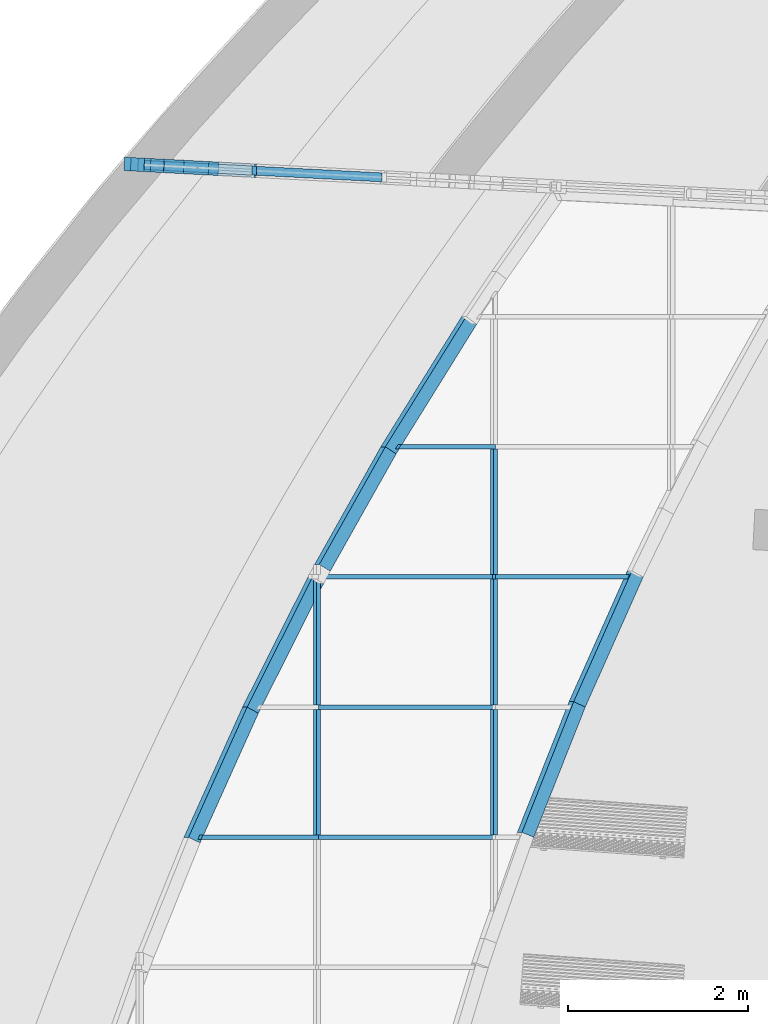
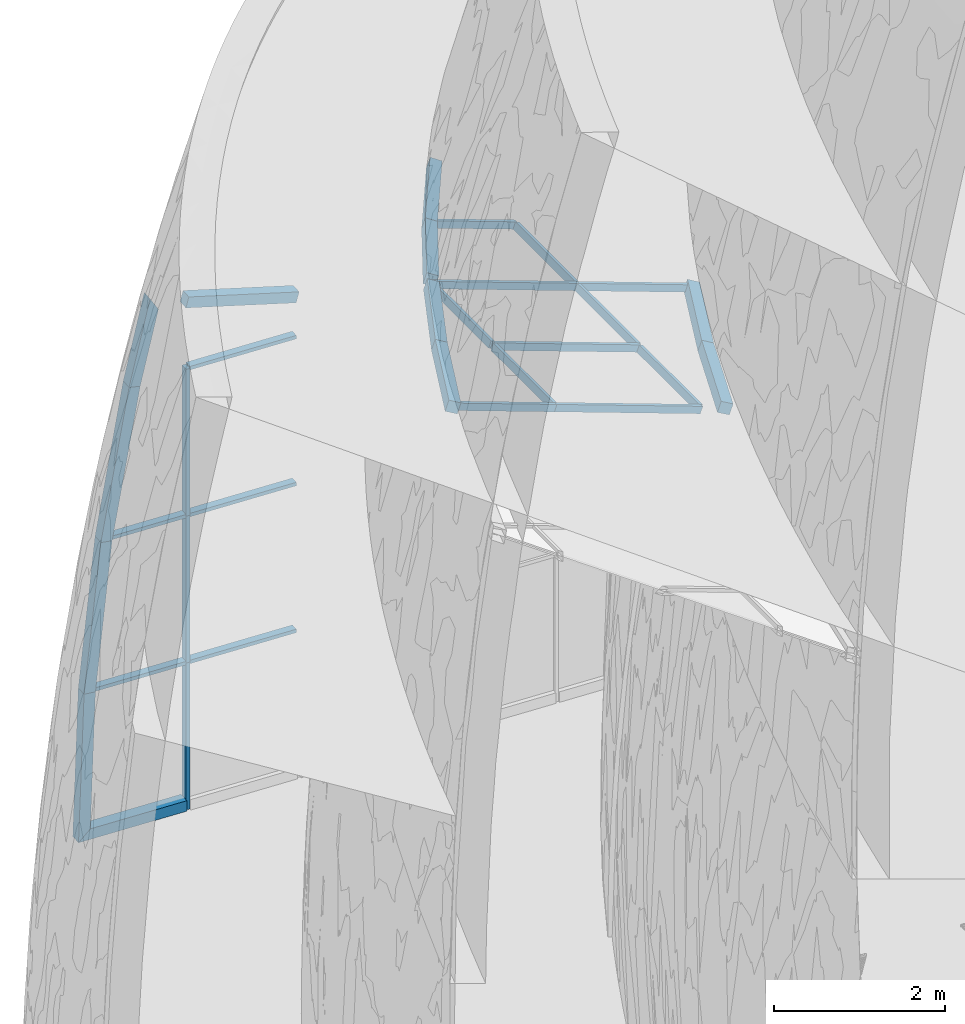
# One storey, part 16 of 82: 31 members, 2 elements without a shape of their own.
"""IFC2X3 building model written with IfcOpenShell, lengths in millimetres."""

from ifc_helpers import new_model, entity, si_unit, converted_unit, derived_unit, direction, frame, frame_2d, origin, origin_2d_with_axis, place, context, subcontext, project, spatial, polyline, rectangle, extrude, clip, halfspace, bounded_halfspace, source, transform, mapped, material, type_object, type_shapes, element, aggregate, save


model = new_model("IFC2X3")

# Units and contexts
model_context = context("Model", 3, precision=0.01, world=origin(), true_north=direction((6.12303176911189e-17, 1.0)))
body_context = subcontext(model_context, "Body", "Model", "MODEL_VIEW")
ifc_project = project(units=[si_unit("LENGTHUNIT", "METRE", prefix="MILLI"), si_unit("AREAUNIT", "SQUARE_METRE"), si_unit("VOLUMEUNIT", "CUBIC_METRE"), converted_unit("PLANEANGLEUNIT", "DEGREE", entity("IfcRatioMeasure", 0.0174532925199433), si_unit("PLANEANGLEUNIT", "RADIAN"), dimensions=[0, 0, 0, 0, 0, 0, 0]), si_unit("MASSUNIT", "GRAM", prefix="KILO"), derived_unit("MASSDENSITYUNIT", [(si_unit("MASSUNIT", "GRAM", prefix="KILO"), 1), (si_unit("LENGTHUNIT", "METRE"), -3)]), si_unit("TIMEUNIT", "SECOND"), si_unit("FREQUENCYUNIT", "HERTZ"), si_unit("THERMODYNAMICTEMPERATUREUNIT", "DEGREE_CELSIUS"), derived_unit("THERMALTRANSMITTANCEUNIT", [(si_unit("MASSUNIT", "GRAM", prefix="KILO"), 1), (si_unit("THERMODYNAMICTEMPERATUREUNIT", "KELVIN"), -1), (si_unit("TIMEUNIT", "SECOND"), -3)]), derived_unit("VOLUMETRICFLOWRATEUNIT", [(si_unit("LENGTHUNIT", "METRE"), 3), (si_unit("TIMEUNIT", "SECOND"), -1)]), si_unit("ELECTRICCURRENTUNIT", "AMPERE"), si_unit("ELECTRICVOLTAGEUNIT", "VOLT"), si_unit("POWERUNIT", "WATT"), si_unit("FORCEUNIT", "NEWTON", prefix="KILO"), si_unit("ILLUMINANCEUNIT", "LUX"), si_unit("LUMINOUSFLUXUNIT", "LUMEN"), si_unit("LUMINOUSINTENSITYUNIT", "CANDELA"), derived_unit("USERDEFINED", [(si_unit("MASSUNIT", "GRAM", prefix="KILO"), -1), (si_unit("LENGTHUNIT", "METRE"), -2), (si_unit("TIMEUNIT", "SECOND"), 3), (si_unit("LUMINOUSFLUXUNIT", "LUMEN"), 1)]), derived_unit("LINEARVELOCITYUNIT", [(si_unit("LENGTHUNIT", "METRE"), 1), (si_unit("TIMEUNIT", "SECOND"), -1)]), si_unit("PRESSUREUNIT", "PASCAL"), derived_unit("USERDEFINED", [(si_unit("LENGTHUNIT", "METRE"), -2), (si_unit("MASSUNIT", "GRAM", prefix="KILO"), 1), (si_unit("TIMEUNIT", "SECOND"), -2)])], contexts=[model_context])

# Site, building, storey
site_placement = place(None, origin())
site = spatial("IfcSite", under=ifc_project, at=site_placement, Name="表面", CompositionType="ELEMENT")
building_placement = place(site_placement, origin())
building = spatial("IfcBuilding", under=site, at=building_placement, CompositionType="ELEMENT")
storey_placement = place(building_placement, origin())
storey = spatial("IfcBuildingStorey", under=building, at=storey_placement, Name="1F", CompositionType="ELEMENT", Elevation=0.0)

# Curtain wall, members
curtain_wall_type = type_object("IfcCurtainWallType", Name="幕墙系统:1450 x 2100mm", PredefinedType="NOTDEFINED")
curtain_wall_1_placement = place(storey_placement, origin())
curtain_wall_1 = element("IfcCurtainWall", 1, at=curtain_wall_1_placement, inside=storey, type_object=curtain_wall_type, Name="幕墙系统:1450 x 2100mm", ObjectType="幕墙系统:1450 x 2100mm")
ifc_material_1 = material(Name="金属 - 铝")
member_type_1 = type_object("IfcMemberType", Name="50 x 100mm", PredefinedType="MEMBER")
shared_shape_1 = source(origin(), body_context, "Body", "SweptSolid", [
    extrude(rectangle(XDim=100.0, YDim=50.0, at=origin_2d_with_axis()), frame((0.0, 0.0, -1400.0), z_axis=(0.0, 0.0, 1.0), x_axis=(0.0, -1.0, 0.0)), (0.0, 0.0, 1.0), 1400.0),
])
type_shapes(member_type_1, [shared_shape_1])
member_1_placement = place(storey_placement, frame((-35456.9413471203, 3077.63650303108, 2100.0), z_axis=(-0.998629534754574, 0.0523359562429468, 0.0), x_axis=(0.0, 0.0, 1.0)))
member_1 = element("IfcMember", 2, at=member_1_placement, type_object=member_type_1, material=ifc_material_1, Name="矩形竖梃:50 x 100mm", ObjectType="50 x 100mm", context=body_context, shape_type="MappedRepresentation", body=[
    mapped(shared_shape_1, transform((0.0, 0.0, 0.0), scale=1.0)),
])
placement_1 = place(building_placement, frame((0.0, 0.0, 3000.0)))
member_2_placement = place(placement_1, frame((-35456.9413471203, 3077.63650303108, 1200.0), z_axis=(-0.998629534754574, 0.0523359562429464, 0.0), x_axis=(0.0, 0.0, 1.0)))
member_2 = element("IfcMember", 3, at=member_2_placement, type_object=member_type_1, material=ifc_material_1, Name="矩形竖梃:50 x 100mm", ObjectType="50 x 100mm", context=body_context, shape_type="MappedRepresentation", body=[
    mapped(shared_shape_1, transform((0.0, 0.0, 0.0), scale=1.0)),
])
placement_2 = place(building_placement, frame((0.0, 0.0, 6000.0)))
member_3_placement = place(placement_2, frame((-35456.9413471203, 3077.63650303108, 300.0), z_axis=(-0.998629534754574, 0.0523359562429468, 0.0), x_axis=(0.0, 0.0, 1.0)))
member_3 = element("IfcMember", 4, at=member_3_placement, type_object=member_type_1, material=ifc_material_1, Name="矩形竖梃:50 x 100mm", ObjectType="50 x 100mm", context=body_context, shape_type="MappedRepresentation", body=[
    mapped(shared_shape_1, transform((0.0, 0.0, 0.0), scale=1.0)),
])

curtain_wall_2_placement = place(storey_placement, origin())
curtain_wall_2 = element("IfcCurtainWall", 5, at=curtain_wall_2_placement, inside=storey, type_object=curtain_wall_type, Name="幕墙系统:1450 x 2100mm", ObjectType="幕墙系统:1450 x 2100mm")
placement_3 = place(building_placement, frame((0.0, 0.0, 9000.0)))
member_4_placement = place(placement_3, frame((-32809.9164128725, -21.8767198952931, 262.101232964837), z_axis=(0.0, 1.0, 0.0), x_axis=(-0.93969262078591, 0.0, 0.342020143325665)))
member_4 = element("IfcMember", 6, at=member_4_placement, type_object=member_type_1, material=ifc_material_1, Name="矩形竖梃:50 x 100mm", ObjectType="50 x 100mm", context=body_context, shape_type="MappedRepresentation", body=[
    mapped(shared_shape_1, transform((0.0, 0.0, 0.0), scale=1.0)),
])
member_5_placement = place(placement_3, frame((-32809.9164128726, -1471.8767198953, 262.101232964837), z_axis=(0.0, 1.0, 0.0), x_axis=(-0.93969262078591, 0.0, 0.342020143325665)))
member_5 = element("IfcMember", 7, at=member_5_placement, type_object=member_type_1, material=ifc_material_1, Name="矩形竖梃:50 x 100mm", ObjectType="50 x 100mm", context=body_context, shape_type="MappedRepresentation", body=[
    mapped(shared_shape_1, transform((0.0, 0.0, 0.0), scale=1.0)),
])
member_6_placement = place(placement_3, frame((-32809.9164128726, -2921.87671989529, 262.101232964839), z_axis=(0.0, 1.0, 0.0), x_axis=(-0.93969262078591, 0.0, 0.342020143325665)))
member_6 = element("IfcMember", 8, at=member_6_placement, type_object=member_type_1, material=ifc_material_1, Name="矩形竖梃:50 x 100mm", ObjectType="50 x 100mm", context=body_context, shape_type="MappedRepresentation", body=[
    mapped(shared_shape_1, transform((0.0, 0.0, 0.0), scale=1.0)),
])
member_7_placement = place(placement_3, frame((-34783.270916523, -1471.87671989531, 980.343533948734), z_axis=(0.0, 1.0, 0.0), x_axis=(-0.93969262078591, 0.0, 0.342020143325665)))
member_7 = element("IfcMember", 9, at=member_7_placement, type_object=member_type_1, material=ifc_material_1, Name="矩形竖梃:50 x 100mm", ObjectType="50 x 100mm", context=body_context, shape_type="MappedRepresentation", body=[
    mapped(shared_shape_1, transform((0.0, 0.0, 0.0), scale=1.0)),
])
member_8_placement = place(placement_3, frame((-34783.270916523, -2921.87671989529, 980.343533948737), z_axis=(0.0, 1.0, 0.0), x_axis=(-0.93969262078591, 0.0, 0.342020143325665)))
member_8 = element("IfcMember", 10, at=member_8_placement, type_object=member_type_1, material=ifc_material_1, Name="矩形竖梃:50 x 100mm", ObjectType="50 x 100mm", context=body_context, shape_type="MappedRepresentation", body=[
    mapped(shared_shape_1, transform((0.0, 0.0, 0.0), scale=1.0)),
])

# Member
member_type_2 = type_object("IfcMemberType", Name="50 x 100mm", PredefinedType="MEMBER")
shared_shape_2 = source(origin(), body_context, "Body", "SweptSolid", [
    extrude(rectangle(XDim=100.0, YDim=50.0, at=origin_2d_with_axis()), frame((0.0, 0.0, -2100.0), z_axis=(0.0, 0.0, 1.0), x_axis=(0.0, -1.0, 0.0)), (0.0, 0.0, 1.0), 2100.0),
])
type_shapes(member_type_2, [shared_shape_2])
member_9_placement = place(storey_placement, frame((-35481.9070854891, 3078.94490193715, 2100.0), z_axis=(0.0, 0.0, 1.0), x_axis=(0.998629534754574, -0.0523359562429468, 0.0)))
member_9 = element("IfcMember", 11, at=member_9_placement, type_object=member_type_2, material=ifc_material_1, Name="矩形竖梃:50 x 100mm", ObjectType="50 x 100mm", context=body_context, shape_type="MappedRepresentation", body=[
    mapped(shared_shape_2, transform((0.0, 0.0, 0.0), scale=1.0)),
])

member_type_3 = type_object("IfcMemberType", Name="50 x 100mm", PredefinedType="MEMBER")
shared_shape_3 = source(origin(), body_context, "Body", "SweptSolid", [
    extrude(rectangle(XDim=100.0, YDim=50.0, at=origin_2d_with_axis()), frame((0.0, 0.0, -2100.0), z_axis=(0.0, 0.0, 1.0), x_axis=(0.0, -1.0, 0.0)), (0.0, 0.0, 1.0), 2100.0),
])
type_shapes(member_type_3, [shared_shape_3])
member_10_placement = place(storey_placement, frame((-35481.9070854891, 3078.94490193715, 4200.0), z_axis=(0.0, 0.0, 1.0), x_axis=(0.998629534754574, -0.0523359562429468, 0.0)))
member_10 = element("IfcMember", 12, at=member_10_placement, type_object=member_type_3, material=ifc_material_1, Name="矩形竖梃:50 x 100mm", ObjectType="50 x 100mm", context=body_context, shape_type="MappedRepresentation", body=[
    mapped(shared_shape_3, transform((0.0, 0.0, 0.0), scale=1.0)),
])

member_11_placement = place(placement_1, frame((-35481.9070854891, 3078.94490193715, 3300.0), z_axis=(0.0, 0.0, 1.0), x_axis=(0.998629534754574, -0.0523359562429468, 0.0)))
member_11 = element("IfcMember", 13, at=member_11_placement, type_object=member_type_3, material=ifc_material_1, Name="矩形竖梃:50 x 100mm", ObjectType="50 x 100mm", context=body_context, shape_type="MappedRepresentation", body=[
    mapped(shared_shape_3, transform((0.0, 0.0, 0.0), scale=1.0)),
])

member_12_placement = place(placement_3, frame((-34783.270916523, -1446.87671989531, 980.343533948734), z_axis=(-0.939692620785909, 0.0, 0.342020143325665), x_axis=(0.0, -1.0, 0.0)))
member_12 = element("IfcMember", 14, at=member_12_placement, type_object=member_type_3, material=ifc_material_1, Name="矩形竖梃:50 x 100mm", ObjectType="50 x 100mm", context=body_context, shape_type="MappedRepresentation", body=[
    mapped(shared_shape_3, transform((0.0, 0.0, 0.0), scale=1.0)),
])

member_13_placement = place(placement_3, frame((-34783.270916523, -2896.87671989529, 980.343533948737), z_axis=(-0.939692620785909, 0.0, 0.342020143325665), x_axis=(0.0, -1.0, 0.0)))
member_13 = element("IfcMember", 15, at=member_13_placement, type_object=member_type_3, material=ifc_material_1, Name="矩形竖梃:50 x 100mm", ObjectType="50 x 100mm", context=body_context, shape_type="MappedRepresentation", body=[
    mapped(shared_shape_3, transform((0.0, 0.0, 0.0), scale=1.0)),
])

member_14_placement = place(placement_3, frame((-34783.270916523, -4346.8767198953, 980.343533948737), z_axis=(-0.93969262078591, 0.0, 0.342020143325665), x_axis=(0.0, -1.0, 0.0)))
member_14 = element("IfcMember", 16, at=member_14_placement, type_object=member_type_3, material=ifc_material_1, Name="矩形竖梃:50 x 100mm", ObjectType="50 x 100mm", context=body_context, shape_type="MappedRepresentation", body=[
    mapped(shared_shape_3, transform((0.0, 0.0, 0.0), scale=1.0)),
])

ifc_material_2 = material(Name="木质 - 木材")
member_type_4 = type_object("IfcMemberType", Name="200 x 150mm", PredefinedType="MEMBER")
shared_shape_4 = source(origin(), body_context, "Body", "Clipping", [
    clip(extrude(rectangle(XDim=150.0, YDim=150.0, at=origin_2d_with_axis()), frame((-75.0, 0.0, -1425.0), z_axis=(0.0, 0.0, 1.0), x_axis=(0.0, -1.0, 0.0)), (0.0, 0.0, 1.0), 1425.0), halfspace(frame((0.0, -304.800000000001, -1425.0), z_axis=(-0.719267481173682, 0.0, -0.694733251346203), x_axis=(-0.694733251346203, 0.0, 0.719267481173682)), False)),
])
type_shapes(member_type_4, [shared_shape_4])
member_15_placement = place(storey_placement, frame((-35506.872823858, 3080.25330084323, 0.0), z_axis=(0.998629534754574, -0.0523359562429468, 0.0), x_axis=(0.0, 0.0, -1.0)))
member_15 = element("IfcMember", 17, at=member_15_placement, type_object=member_type_4, material=ifc_material_2, Name="矩形竖梃:200 x 150mm", ObjectType="200 x 150mm", context=body_context, shape_type="MappedRepresentation", body=[
    mapped(shared_shape_4, transform((0.0, 0.0, 0.0), scale=1.0)),
])

member_type_5 = type_object("IfcMemberType", Name="200 x 150mm", PredefinedType="MEMBER")
shared_shape_5 = source(origin(), body_context, "Body", "SweptSolid", [
    extrude(rectangle(XDim=150.0, YDim=150.0, at=frame_2d((7.105427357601e-15, 3.5527136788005e-14), x_axis=(1.0, 0.0))), frame((-75.0, 0.0, -1501.01273844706), z_axis=(0.0, 0.0, 1.0), x_axis=(0.0, -1.0, 0.0)), (0.0, 0.0, 1.0), 1501.01273844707),
])
type_shapes(member_type_5, [shared_shape_5])
member_16_placement = place(placement_2, frame((-35481.9070854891, 3078.94490193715, 1343.1751265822), z_axis=(-0.964690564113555, 0.0505572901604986, 0.258488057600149), x_axis=(0.258133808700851, -0.0135282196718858, 0.966014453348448)))
member_16 = element("IfcMember", 18, at=member_16_placement, type_object=member_type_5, material=ifc_material_2, Name="矩形竖梃:200 x 150mm", ObjectType="200 x 150mm", context=body_context, shape_type="MappedRepresentation", body=[
    mapped(shared_shape_5, transform((0.0, 0.0, 0.0), scale=1.0)),
])

member_type_6 = type_object("IfcMemberType", Name="200 x 150mm", PredefinedType="MEMBER")
shared_shape_6 = source(origin(), body_context, "Body", "Clipping", [
    clip(clip(extrude(rectangle(XDim=150.0, YDim=150.0, at=frame_2d((0.0, 1.4210854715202e-14), x_axis=(1.0, 0.0))), frame((-75.0, 0.0, -2101.2700808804), z_axis=(0.0, 0.0, 1.0), x_axis=(0.0, -1.0, 0.0)), (0.0, 0.0, 1.0), 2101.2700808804), halfspace(frame((0.0, -304.8, -2101.2700808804), z_axis=(-0.0348482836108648, 0.0, -0.999392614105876), x_axis=(-0.999392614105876, 0.0, 0.0348482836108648)), False)), halfspace(frame((0.0, -304.8, 0.0), z_axis=(-0.719292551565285, 0.0, 0.694707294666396), x_axis=(-0.694707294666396, 0.0, -0.719292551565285)), False)),
])
type_shapes(member_type_6, [shared_shape_6])
member_17_placement = place(storey_placement, frame((-36929.9199108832, 3154.83203848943, 0.0), z_axis=(-0.0347159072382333, 0.00181938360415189, -0.999395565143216), x_axis=(-0.998025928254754, 0.0523043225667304, 0.0347635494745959)))
member_17 = element("IfcMember", 19, at=member_17_placement, type_object=member_type_6, material=ifc_material_2, Name="矩形竖梃:200 x 150mm", ObjectType="200 x 150mm", context=body_context, shape_type="MappedRepresentation", body=[
    mapped(shared_shape_6, transform((0.0, 0.0, 0.0), scale=1.0)),
])

member_type_7 = type_object("IfcMemberType", Name="200 x 150mm", PredefinedType="MEMBER")
shared_shape_7 = source(origin(), body_context, "Body", "Clipping", [
    clip(clip(extrude(rectangle(XDim=150.0, YDim=150.0, at=origin_2d_with_axis()), frame((-75.0, 0.0, -2111.51451299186), z_axis=(0.0, 0.0, 1.0), x_axis=(0.0, -1.0, 0.0)), (0.0, 0.0, 1.0), 2111.51451299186), halfspace(frame((0.0, -304.8, -2111.51451299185), z_axis=(-0.0351062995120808, 0.0, -0.999383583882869), x_axis=(-0.999383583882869, 0.0, 0.0351062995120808)), False)), halfspace(frame((0.0, -304.8, 0.0), z_axis=(-0.0348482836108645, 0.0, 0.999392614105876), x_axis=(-0.999392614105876, 0.0, -0.0348482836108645)), False)),
])
type_shapes(member_type_7, [shared_shape_7])
member_18_placement = place(storey_placement, frame((-36856.9724136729, 3151.00902215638, 2100.0), z_axis=(-0.104148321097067, 0.00545818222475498, -0.994546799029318), x_axis=(-0.993183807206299, 0.0520505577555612, 0.104291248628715)))
member_18 = element("IfcMember", 20, at=member_18_placement, type_object=member_type_7, material=ifc_material_2, Name="矩形竖梃:200 x 150mm", ObjectType="200 x 150mm", context=body_context, shape_type="MappedRepresentation", body=[
    mapped(shared_shape_7, transform((0.0, 0.0, 0.0), scale=1.0)),
])

member_type_8 = type_object("IfcMemberType", Name="200 x 150mm", PredefinedType="MEMBER")
shared_shape_8 = source(origin(), body_context, "Body", "Clipping", [
    clip(clip(extrude(rectangle(XDim=150.0, YDim=150.0, at=frame_2d((0.0, 4.9737991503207e-14), x_axis=(1.0, 0.0))), frame((-75.0, 0.0, -2132.46184778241), z_axis=(0.0, 0.0, 1.0), x_axis=(0.0, -1.0, 0.0)), (0.0, 0.0, 1.0), 2132.46184778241), halfspace(frame((0.0, -304.8, -2132.46184778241), z_axis=(-0.0276622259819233, 0.0, -0.999617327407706), x_axis=(-0.999617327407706, 0.0, 0.0276622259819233)), False)), halfspace(frame((0.0, -304.8, 0.0), z_axis=(-0.0351062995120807, 0.0, 0.999383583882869), x_axis=(-0.999383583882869, 0.0, -0.0351062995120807)), False)),
])
type_shapes(member_type_8, [shared_shape_8])
member_19_placement = place(placement_1, frame((-36637.0617221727, 3139.48399117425, 1200.0), z_axis=(-0.173582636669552, 0.00909708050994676, -0.984777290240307), x_axis=(-0.983427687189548, 0.0515392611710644, 0.173820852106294)))
member_19 = element("IfcMember", 21, at=member_19_placement, type_object=member_type_8, material=ifc_material_2, Name="矩形竖梃:200 x 150mm", ObjectType="200 x 150mm", context=body_context, shape_type="MappedRepresentation", body=[
    mapped(shared_shape_8, transform((0.0, 0.0, 0.0), scale=1.0)),
])

member_type_9 = type_object("IfcMemberType", Name="200 x 150mm", PredefinedType="MEMBER")
shared_shape_9 = source(origin(), body_context, "Body", "Clipping", [
    clip(clip(extrude(rectangle(XDim=150.0, YDim=150.0, at=origin_2d_with_axis()), frame((-75.0, 0.0, -1211.51072756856), z_axis=(0.0, 0.0, 1.0), x_axis=(0.0, -1.0, 0.0)), (0.0, 0.0, 1.0), 1211.51072756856), halfspace(frame((0.0, -304.800000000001, -1211.51072756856), z_axis=(-0.718126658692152, 0.0, -0.695912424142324), x_axis=(-0.695912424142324, 0.0, 0.718126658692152)), False)), halfspace(frame((0.0, -304.8, 0.0), z_axis=(-0.0276622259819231, 0.0, 0.999617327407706), x_axis=(-0.999617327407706, 0.0, -0.0276622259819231)), False)),
])
type_shapes(member_type_9, [shared_shape_9])
member_20_placement = place(placement_2, frame((-36266.9033720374, 3120.08481406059, 300.0), z_axis=(-0.227703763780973, 0.0119334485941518, -0.973657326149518), x_axis=(-0.972322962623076, 0.0509572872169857, 0.228016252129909)))
member_20 = element("IfcMember", 22, at=member_20_placement, type_object=member_type_9, material=ifc_material_2, Name="矩形竖梃:200 x 150mm", ObjectType="200 x 150mm", context=body_context, shape_type="MappedRepresentation", body=[
    mapped(shared_shape_9, transform((0.0, 0.0, 0.0), scale=1.0)),
])

member_type_10 = type_object("IfcMemberType", Name="50 x 100mm", PredefinedType="MEMBER")
shared_shape_10 = source(origin(), body_context, "Body", "Clipping", [
    clip(clip(extrude(rectangle(XDim=100.0, YDim=50.0, at=origin_2d_with_axis()), frame((0.0, 0.0, -1351.95239358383), z_axis=(0.0, 0.0, 1.0), x_axis=(0.0, -1.0, 0.0)), (0.0, 0.0, 1.0), 1202.73128788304), bounded_halfspace(frame((-10.4417903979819, 75.0, -149.727506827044), z_axis=(0.104291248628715, 0.0, 0.994546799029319), x_axis=(0.994546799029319, 0.0, -0.104291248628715)), False, frame((0.0, 0.0, -1351.95239358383), z_axis=(0.0, 0.0, 1.0), x_axis=(0.0, -1.0, 0.0)), polyline([(-50.0, 25.0), (-50.0, -10.4417903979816), (50.0, -10.4417903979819), (50.0, 25.0), (-50.0, 25.0)]))), bounded_halfspace(frame((-2105.21453242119, 75.0, -76.8617283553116), z_axis=(0.0347635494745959, 0.0, 0.999395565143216), x_axis=(0.999395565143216, 0.0, -0.0347635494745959)), False, frame((0.0, 0.0, -1351.95239358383), z_axis=(0.0, 0.0, 1.0), x_axis=(0.0, -1.0, 0.0)), polyline([(-50.0, -10.4417903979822), (-50.0, -25.0), (50.0, -25.0), (50.0, -10.4417903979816), (-50.0, -10.4417903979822)]))),
])
type_shapes(member_type_10, [shared_shape_10])
member_21_placement = place(storey_placement, frame((-36856.9724136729, 3151.00902215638, 2100.0), z_axis=(-0.998629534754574, 0.0523359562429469, 0.0), x_axis=(0.0, 0.0, 1.0)))
member_21 = element("IfcMember", 23, at=member_21_placement, type_object=member_type_10, material=ifc_material_1, Name="矩形竖梃:50 x 100mm", ObjectType="50 x 100mm", context=body_context, shape_type="MappedRepresentation", body=[
    mapped(shared_shape_10, transform((0.0, 0.0, 0.0), scale=1.0)),
])

member_type_11 = type_object("IfcMemberType", Name="50 x 100mm", PredefinedType="MEMBER")
shared_shape_11 = source(origin(), body_context, "Body", "Clipping", [
    clip(clip(extrude(rectangle(XDim=100.0, YDim=50.0, at=origin_2d_with_axis()), frame((0.0, 0.0, -1131.73990852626), z_axis=(0.0, 0.0, 1.0), x_axis=(0.0, -1.0, 0.0)), (0.0, 0.0, 1.0), 983.539020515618), bounded_halfspace(frame((-20.8841462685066, 75.0, -148.632489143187), z_axis=(0.173820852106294, 0.0, 0.984777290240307), x_axis=(0.984777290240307, 0.0, -0.173820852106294)), False, frame((0.0, 0.0, -1131.73990852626), z_axis=(0.0, 0.0, 1.0), x_axis=(0.0, -1.0, 0.0)), polyline([(-50.0, 25.0), (-50.0, -20.8841462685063), (50.0, -20.8841462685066), (50.0, 25.0), (-50.0, 25.0)]))), bounded_halfspace(frame((-2115.64368729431, 75.0, 71.0304652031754), z_axis=(0.104291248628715, 0.0, 0.994546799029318), x_axis=(0.994546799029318, 0.0, -0.104291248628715)), False, frame((0.0, 0.0, -1131.73990852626), z_axis=(0.0, 0.0, 1.0), x_axis=(0.0, -1.0, 0.0)), polyline([(-50.0, -20.8841462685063), (-50.0, -25.0), (50.0, -25.0), (50.0, -20.8841462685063), (-50.0, -20.8841462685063)]))),
])
type_shapes(member_type_11, [shared_shape_11])
member_22_placement = place(placement_1, frame((-36637.0617221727, 3139.48399117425, 1200.0), z_axis=(-0.998629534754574, 0.0523359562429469, 0.0), x_axis=(0.0, 0.0, 1.0)))
member_22 = element("IfcMember", 24, at=member_22_placement, type_object=member_type_11, material=ifc_material_1, Name="矩形竖梃:50 x 100mm", ObjectType="50 x 100mm", context=body_context, shape_type="MappedRepresentation", body=[
    mapped(shared_shape_11, transform((0.0, 0.0, 0.0), scale=1.0)),
])

aggregate(curtain_wall_1, [member_15, member_16, member_17, member_18, member_19, member_20, member_21, member_1, member_22, member_2, member_3, member_9, member_10, member_11])

member_type_12 = type_object("IfcMemberType", Name="200 x 150mm", PredefinedType="MEMBER")
shared_shape_12 = source(origin(), body_context, "Body", "Clipping", [
    clip(clip(extrude(rectangle(XDim=150.0, YDim=150.0, at=frame_2d((5.6843418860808e-14, 4.9737991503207e-14), x_axis=(1.0, 0.0))), frame((-75.0, 0.0, -1607.1539232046), z_axis=(0.0, 0.0, 1.0), x_axis=(0.0, -1.0, 0.0)), (0.0, 0.0, 1.0), 1610.45052466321), halfspace(frame((0.0, 304.799999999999, -1604.67684776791), z_axis=(0.016511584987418, 0.0, -0.999863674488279), x_axis=(0.999863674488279, 0.0, 0.016511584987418)), False)), halfspace(frame((0.0, 304.8, 0.0), z_axis=(0.0219720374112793, 0.0, 0.999758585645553), x_axis=(0.999758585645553, 0.0, -0.0219720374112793)), False)),
])
type_shapes(member_type_12, [shared_shape_12])
member_23_placement = place(placement_2, frame((-31819.6876502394, -2896.87671989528, 2901.68743825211), z_axis=(-0.402525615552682, -0.90360872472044, 0.146507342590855), x_axis=(0.849114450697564, -0.428358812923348, -0.309052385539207)))
member_23 = element("IfcMember", 25, at=member_23_placement, type_object=member_type_12, material=ifc_material_2, Name="矩形竖梃:200 x 150mm", ObjectType="200 x 150mm", context=body_context, shape_type="MappedRepresentation", body=[
    mapped(shared_shape_12, transform((0.0, 0.0, 0.0), scale=1.0)),
])

member_type_13 = type_object("IfcMemberType", Name="200 x 150mm", PredefinedType="MEMBER")
shared_shape_13 = source(origin(), body_context, "Body", "Clipping", [
    clip(clip(extrude(rectangle(XDim=150.0, YDim=150.0, at=frame_2d((5.6843418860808e-14, -8.5265128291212e-14), x_axis=(1.0, 0.0))), frame((-75.0, 0.0, -1576.72319980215), z_axis=(0.0, 0.0, 1.0), x_axis=(0.0, -1.0, 0.0)), (0.0, 0.0, 1.0), 1579.66081051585), halfspace(frame((0.0, 304.800000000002, -1573.42659834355), z_axis=(0.0219720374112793, 0.0, -0.999758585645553), x_axis=(0.999758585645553, 0.0, 0.0219720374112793)), False)), halfspace(frame((0.0, 304.8, 0.0), z_axis=(0.0195803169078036, 0.0, 0.999808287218), x_axis=(0.999808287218, 0.0, -0.0195803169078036)), False)),
])
type_shapes(member_type_13, [shared_shape_13])
member_24_placement = place(placement_2, frame((-32393.724683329, -4346.8767198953, 3110.61983166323), z_axis=(-0.364832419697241, -0.921555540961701, 0.132788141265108), x_axis=(0.865978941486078, -0.388246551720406, -0.315190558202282)))
member_24 = element("IfcMember", 26, at=member_24_placement, type_object=member_type_13, material=ifc_material_2, Name="矩形竖梃:200 x 150mm", ObjectType="200 x 150mm", context=body_context, shape_type="MappedRepresentation", body=[
    mapped(shared_shape_13, transform((0.0, 0.0, 0.0), scale=1.0)),
])

member_type_14 = type_object("IfcMemberType", Name="200 x 150mm", PredefinedType="MEMBER")
shared_shape_14 = source(origin(), body_context, "Body", "Clipping", [
    clip(clip(extrude(rectangle(XDim=150.0, YDim=150.0, at=frame_2d((0.0, -9.9475983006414e-14), x_axis=(1.0, 0.0))), frame((-75.0, 0.0, -1738.07985136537), z_axis=(0.0, 0.0, 1.0), x_axis=(0.0, -1.0, 0.0)), (0.0, 0.0, 1.0), 1738.07985136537), halfspace(frame((0.0, -304.8, -1738.07985136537), z_axis=(-0.0224041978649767, 0.0, -0.999748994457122), x_axis=(-0.999748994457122, 0.0, 0.0224041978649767)), False)), halfspace(frame((0.0, -304.8, 0.0), z_axis=(-0.0161667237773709, 0.0, 0.999869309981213), x_axis=(-0.999869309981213, 0.0, -0.0161667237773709)), False)),
])
type_shapes(member_type_14, [shared_shape_14])
member_25_placement = place(placement_3, frame((-33145.7449569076, 1453.1232801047, 384.332826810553), z_axis=(0.518128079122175, 0.834253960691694, -0.188583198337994), x_axis=(-0.783942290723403, 0.551380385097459, 0.285331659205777)))
member_25 = element("IfcMember", 27, at=member_25_placement, type_object=member_type_14, material=ifc_material_2, Name="矩形竖梃:200 x 150mm", ObjectType="200 x 150mm", context=body_context, shape_type="MappedRepresentation", body=[
    mapped(shared_shape_14, transform((0.0, 0.0, 0.0), scale=1.0)),
])

member_type_15 = type_object("IfcMemberType", Name="200 x 150mm", PredefinedType="MEMBER")
shared_shape_15 = source(origin(), body_context, "Body", "Clipping", [
    clip(clip(extrude(rectangle(XDim=150.0, YDim=150.0, at=frame_2d((-4.2632564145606e-14, -6.3948846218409e-14), x_axis=(1.0, 0.0))), frame((-75.0, 0.0, -1527.44858451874), z_axis=(0.0, 0.0, 1.0), x_axis=(0.0, -1.0, 0.0)), (0.0, 0.0, 1.0), 1527.44858451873), halfspace(frame((0.0, -304.8, -1527.44858451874), z_axis=(-0.0115783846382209, 0.0, -0.999932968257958), x_axis=(-0.999932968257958, 0.0, 0.0115783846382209)), False)), halfspace(frame((0.0, -304.8, 0.0), z_axis=(-0.0224041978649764, 0.0, 0.999748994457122), x_axis=(-0.999748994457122, 0.0, -0.0224041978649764)), False)),
])
type_shapes(member_type_15, [shared_shape_15])
member_26_placement = place(placement_3, frame((-34046.2929316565, 3.12328010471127, 712.105484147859), z_axis=(0.482489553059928, 0.858116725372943, -0.175611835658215), x_axis=(-0.806365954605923, 0.513454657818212, 0.293493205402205)))
member_26 = element("IfcMember", 28, at=member_26_placement, type_object=member_type_15, material=ifc_material_2, Name="矩形竖梃:200 x 150mm", ObjectType="200 x 150mm", context=body_context, shape_type="MappedRepresentation", body=[
    mapped(shared_shape_15, transform((0.0, 0.0, 0.0), scale=1.0)),
])

member_type_16 = type_object("IfcMemberType", Name="200 x 150mm", PredefinedType="MEMBER")
shared_shape_16 = source(origin(), body_context, "Body", "Clipping", [
    clip(clip(extrude(rectangle(XDim=150.0, YDim=150.0, at=frame_2d((-4.2632564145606e-14, 4.9737991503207e-14), x_axis=(1.0, 0.0))), frame((-75.0, 0.0, -1644.49828423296), z_axis=(0.0, 0.0, 1.0), x_axis=(0.0, -1.0, 0.0)), (0.0, 0.0, 1.0), 1644.49828423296), halfspace(frame((0.0, -304.799999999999, -1644.49828423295), z_axis=(-0.0223128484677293, 0.0, -0.999751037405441), x_axis=(-0.999751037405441, 0.0, 0.0223128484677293)), False)), halfspace(frame((0.0, -304.8, 0.0), z_axis=(-0.012381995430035, 0.0, 0.99992334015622), x_axis=(-0.99992334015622, 0.0, -0.012381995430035)), False)),
])
type_shapes(member_type_16, [shared_shape_16])
member_27_placement = place(placement_3, frame((-34857.5179741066, -1446.87671989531, 1007.36725289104), z_axis=(0.443307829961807, 0.881727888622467, -0.161350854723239), x_axis=(-0.828553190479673, 0.471758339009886, 0.301568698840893)))
member_27 = element("IfcMember", 29, at=member_27_placement, type_object=member_type_16, material=ifc_material_2, Name="矩形竖梃:200 x 150mm", ObjectType="200 x 150mm", context=body_context, shape_type="MappedRepresentation", body=[
    mapped(shared_shape_16, transform((0.0, 0.0, 0.0), scale=1.0)),
])

member_type_17 = type_object("IfcMemberType", Name="200 x 150mm", PredefinedType="MEMBER")
shared_shape_17 = source(origin(), body_context, "Body", "Clipping", [
    clip(clip(extrude(rectangle(XDim=150.0, YDim=150.0, at=origin_2d_with_axis()), frame((-75.0, 0.0, -1607.72197559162), z_axis=(0.0, 0.0, 1.0), x_axis=(0.0, -1.0, 0.0)), (0.0, 0.0, 1.0), 1607.72197559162), halfspace(frame((0.0, -304.8, -1607.72197559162), z_axis=(-0.0206101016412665, 0.0, -0.999787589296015), x_axis=(-0.999787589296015, 0.0, 0.0206101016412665)), False)), halfspace(frame((0.0, -304.800000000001, 0.0), z_axis=(-0.0223128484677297, 0.0, 0.999751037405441), x_axis=(-0.999751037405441, 0.0, -0.0223128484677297)), False)),
])
type_shapes(member_type_17, [shared_shape_17])
member_28_placement = place(placement_3, frame((-35586.5369398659, -2896.8767198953, 1272.70845664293), z_axis=(0.405900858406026, 0.901897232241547, -0.147735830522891), x_axis=(-0.847506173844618, 0.431950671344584, 0.308467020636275)))
member_28 = element("IfcMember", 30, at=member_28_placement, type_object=member_type_17, material=ifc_material_2, Name="矩形竖梃:200 x 150mm", ObjectType="200 x 150mm", context=body_context, shape_type="MappedRepresentation", body=[
    mapped(shared_shape_17, transform((0.0, 0.0, 0.0), scale=1.0)),
])

member_type_18 = type_object("IfcMemberType", Name="50 x 100mm", PredefinedType="MEMBER")
shared_shape_18 = source(origin(), body_context, "Body", "Clipping", [
    clip(extrude(rectangle(XDim=100.0, YDim=50.0, at=origin_2d_with_axis()), frame((0.0, 0.0, -1315.72440970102), z_axis=(0.0, 0.0, 1.0), x_axis=(0.0, -1.0, 0.0)), (0.0, 0.0, 1.0), 1152.44620331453), halfspace(frame((-1367.29294223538, 75.0, -1083.48123187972), z_axis=(-0.551380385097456, 0.0, 0.834253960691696), x_axis=(0.834253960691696, 0.0, 0.551380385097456)), False)),
])
type_shapes(member_type_18, [shared_shape_18])
member_29_placement = place(placement_3, frame((-34046.2929316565, 3.12328010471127, 712.105484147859), z_axis=(-0.939692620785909, 0.0, 0.342020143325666), x_axis=(0.0, -1.0, 0.0)))
member_29 = element("IfcMember", 31, at=member_29_placement, type_object=member_type_18, material=ifc_material_1, Name="矩形竖梃:50 x 100mm", ObjectType="50 x 100mm", context=body_context, shape_type="MappedRepresentation", body=[
    mapped(shared_shape_18, transform((0.0, 0.0, 0.0), scale=1.0)),
])

member_type_19 = type_object("IfcMemberType", Name="50 x 100mm", PredefinedType="MEMBER")
shared_shape_19 = source(origin(), body_context, "Body", "Clipping", [
    clip(extrude(rectangle(XDim=100.0, YDim=50.0, at=origin_2d_with_axis()), frame((0.0, 0.0, -1549.27443411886), z_axis=(0.0, 0.0, 1.0), x_axis=(0.0, -1.0, 0.0)), (0.0, 0.0, 1.0), 1394.93175710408), halfspace(frame((-1385.20739929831, 75.0, -829.741171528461), z_axis=(-0.431950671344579, 0.0, 0.90189723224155), x_axis=(0.90189723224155, 0.0, 0.431950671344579)), False)),
])
type_shapes(member_type_19, [shared_shape_19])
member_30_placement = place(placement_3, frame((-36239.1126698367, -4346.87671989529, 1510.22659795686), z_axis=(-0.93969262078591, 0.0, 0.342020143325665), x_axis=(0.0, -1.0, 0.0)))
member_30 = element("IfcMember", 32, at=member_30_placement, type_object=member_type_19, material=ifc_material_1, Name="矩形竖梃:50 x 100mm", ObjectType="50 x 100mm", context=body_context, shape_type="MappedRepresentation", body=[
    mapped(shared_shape_19, transform((0.0, 0.0, 0.0), scale=1.0)),
])

member_type_20 = type_object("IfcMemberType", Name="50 x 100mm", PredefinedType="MEMBER")
shared_shape_20 = source(origin(), body_context, "Body", "Clipping", [
    clip(extrude(rectangle(XDim=100.0, YDim=50.0, at=origin_2d_with_axis()), frame((0.0, 0.0, -1587.00719096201), z_axis=(0.0, 0.0, 1.0), x_axis=(0.0, -1.0, 0.0)), (0.0, 0.0, 1.0), 1587.00719096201), halfspace(frame((1385.74617806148, 75.0, -918.238130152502), z_axis=(0.428358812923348, 0.0, -0.90360872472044), x_axis=(-0.90360872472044, 0.0, -0.428358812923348)), False)),
])
type_shapes(member_type_20, [shared_shape_20])
member_31_placement = place(placement_2, frame((-32809.9164128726, -1446.8767198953, 3262.10123296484), z_axis=(-0.93969262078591, 0.0, 0.342020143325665), x_axis=(0.0, -1.0, 0.0)))
member_31 = element("IfcMember", 33, at=member_31_placement, type_object=member_type_20, material=ifc_material_1, Name="矩形竖梃:50 x 100mm", ObjectType="50 x 100mm", context=body_context, shape_type="MappedRepresentation", body=[
    mapped(shared_shape_20, transform((0.0, 0.0, 0.0), scale=1.0)),
])

aggregate(curtain_wall_2, [member_23, member_24, member_25, member_26, member_27, member_28, member_4, member_5, member_6, member_7, member_8, member_29, member_30, member_31, member_12, member_13, member_14])

save(model, "model.ifc")
